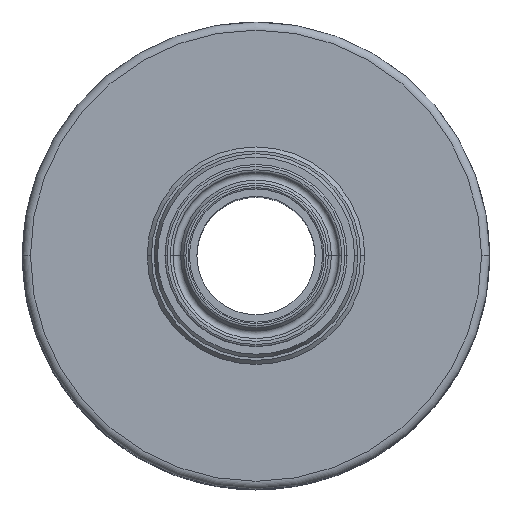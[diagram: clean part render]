
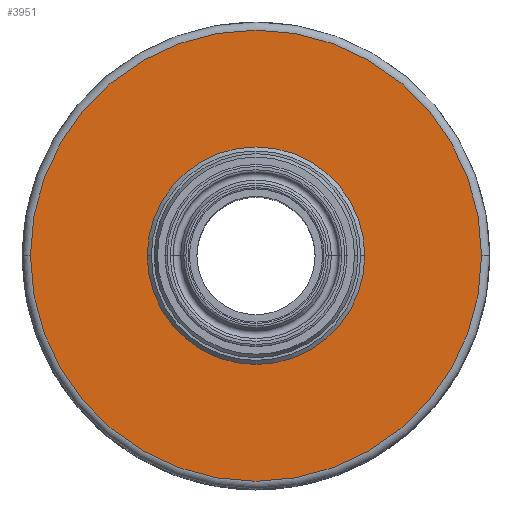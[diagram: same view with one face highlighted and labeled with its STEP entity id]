
A CAD part, top view. The second image highlights one B-rep face of the part: STEP entity #3951.
In plain terms, the highlighted planar face has unit normal (0, 0, 1).
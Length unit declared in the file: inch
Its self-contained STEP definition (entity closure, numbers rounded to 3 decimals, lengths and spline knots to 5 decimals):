
#298 = CIRCLE ( 'NONE', #311, 0.8 ) ;
#311 = AXIS2_PLACEMENT_3D ( 'NONE', #4319, #4320, #4321 ) ;
#608 = CARTESIAN_POINT ( 'NONE',  ( 0., 0., -0.72 ) ) ;
#609 = DIRECTION ( 'NONE',  ( 0., 0., 1. ) ) ;
#610 = DIRECTION ( 'NONE',  ( 1., 0., 0. ) ) ;
#613 = CARTESIAN_POINT ( 'NONE',  ( 0., 0., -0.72 ) ) ;
#614 = DIRECTION ( 'NONE',  ( 0., 0., 1. ) ) ;
#615 = DIRECTION ( 'NONE',  ( -1., 0., 0. ) ) ;
#779 = VERTEX_POINT ( 'NONE', #2277 ) ;
#940 = EDGE_LOOP ( 'NONE', ( #4041, #4061 ) ) ;
#941 = EDGE_LOOP ( 'NONE', ( #4037, #4043 ) ) ;
#1253 = VERTEX_POINT ( 'NONE', #2325 ) ;
#1318 = VERTEX_POINT ( 'NONE', #3103 ) ;
#1354 = VERTEX_POINT ( 'NONE', #3137 ) ;
#1498 = EDGE_CURVE ( 'NONE', #1253, #1318, #1814, .T. ) ;
#1521 = AXIS2_PLACEMENT_3D ( 'NONE', #3185, #3186, #3187 ) ;
#1797 = EDGE_CURVE ( 'NONE', #779, #1354, #2105, .T. ) ;
#1798 = EDGE_CURVE ( 'NONE', #1318, #1253, #2106, .T. ) ;
#1814 = CIRCLE ( 'NONE', #1521, 1.659 ) ;
#1896 = EDGE_CURVE ( 'NONE', #1354, #779, #298, .T. ) ;
#2105 = CIRCLE ( 'NONE', #2109, 0.8 ) ;
#2106 = CIRCLE ( 'NONE', #2111, 1.659 ) ;
#2109 = AXIS2_PLACEMENT_3D ( 'NONE', #608, #609, #610 ) ;
#2111 = AXIS2_PLACEMENT_3D ( 'NONE', #613, #614, #615 ) ;
#2277 = CARTESIAN_POINT ( 'NONE',  ( -0.8, 0., -0.72 ) ) ;
#2325 = CARTESIAN_POINT ( 'NONE',  ( 1.659, 0., -0.72 ) ) ;
#2691 = AXIS2_PLACEMENT_3D ( 'NONE', #3633, #3631, #3638 ) ;
#3103 = CARTESIAN_POINT ( 'NONE',  ( -1.659, 0., -0.72 ) ) ;
#3137 = CARTESIAN_POINT ( 'NONE',  ( 0.8, 0., -0.72 ) ) ;
#3185 = CARTESIAN_POINT ( 'NONE',  ( 0., 0., -0.72 ) ) ;
#3186 = DIRECTION ( 'NONE',  ( 0., 0., 1. ) ) ;
#3187 = DIRECTION ( 'NONE',  ( -1., 0., 0. ) ) ;
#3629 = FACE_OUTER_BOUND ( 'NONE', #941, .T. ) ;
#3631 = DIRECTION ( 'NONE',  ( 0., 0., -1. ) ) ;
#3633 = CARTESIAN_POINT ( 'NONE',  ( 0., 0.8, -0.72 ) ) ;
#3635 = FACE_BOUND ( 'NONE', #940, .T. ) ;
#3636 = PLANE ( 'NONE',  #2691 ) ;
#3638 = DIRECTION ( 'NONE',  ( -1., 0., 0. ) ) ;
#3951 = ADVANCED_FACE ( 'NONE', ( #3629, #3635 ), #3636, .F. ) ;
#4037 = ORIENTED_EDGE ( 'NONE', *, *, #1798, .T. ) ;
#4041 = ORIENTED_EDGE ( 'NONE', *, *, #1797, .F. ) ;
#4043 = ORIENTED_EDGE ( 'NONE', *, *, #1498, .T. ) ;
#4061 = ORIENTED_EDGE ( 'NONE', *, *, #1896, .F. ) ;
#4319 = CARTESIAN_POINT ( 'NONE',  ( 0., 0., -0.72 ) ) ;
#4320 = DIRECTION ( 'NONE',  ( 0., 0., 1. ) ) ;
#4321 = DIRECTION ( 'NONE',  ( 1., 0., 0. ) ) ;
